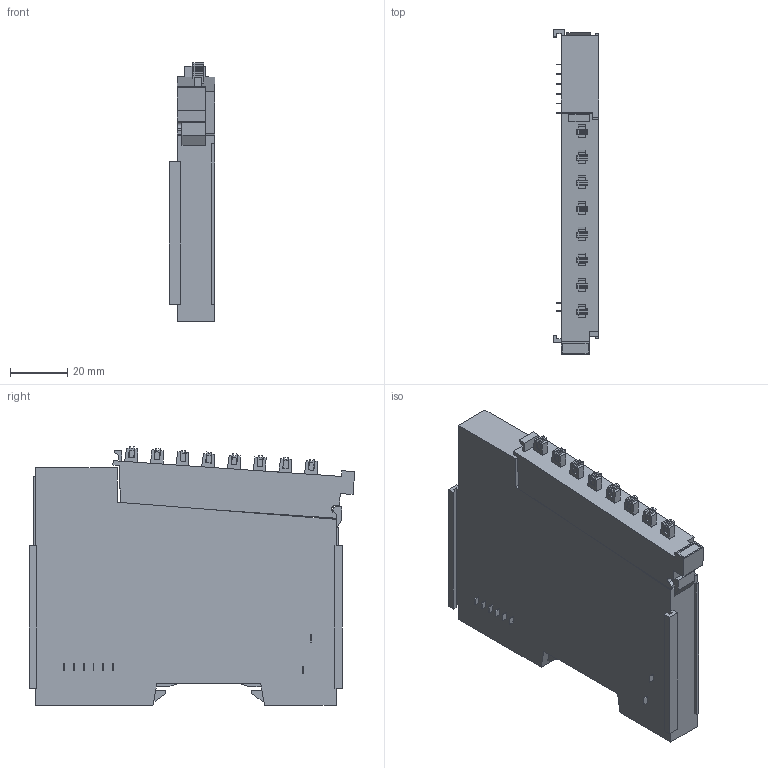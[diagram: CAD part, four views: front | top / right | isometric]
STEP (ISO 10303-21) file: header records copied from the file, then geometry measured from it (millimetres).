
FILE_DESCRIPTION((''),'2;1');
FILE_NAME('M-8DE_ASM','2021-07-21T16:42:34',('laptop'),(''),'CREO PARAMETRIC BY PTC INC, 2018500','CREO PARAMETRIC BY PTC INC, 2018500','');
FILE_SCHEMA(('CONFIG_CONTROL_DESIGN'));
Length unit declared in the file: millimetre
Products named in the file (6): I-O-MODULE-H_10_1_2_2; I-O-MODULE-H_10_1; I-O-MODULE-H_10_1_2_ASM; 8PINCONNECTOR_3_1; I-O-MODULE-DEVICE_ASM_10_1_ASM; M-8DE_ASM
Assembly tree (5 placements, depth 4):
  M-8DE_ASM
    I-O-MODULE-DEVICE_ASM_10_1_ASM
      I-O-MODULE-H_10_1_2_ASM
        I-O-MODULE-H_10_1_2_2
        I-O-MODULE-H_10_1
      8PINCONNECTOR_3_1
Bounding box: 16 x 113.69 x 90.43 mm (x, y, z)
Volume: 112984.9 mm3; surface area: 27642.4 mm2
Topology: 3 solids, 3 shells, 466 faces, 1249 edges, 834 vertices
Faces by surface type: plane 464, cylinder 2
Entity records: 14422 total; most frequent: CARTESIAN_POINT 2564, ORIENTED_EDGE 2498, DIRECTION 2219, EDGE_CURVE 1249, VECTOR 1241, LINE 1241, VERTEX_POINT 834, EDGE_LOOP 511
